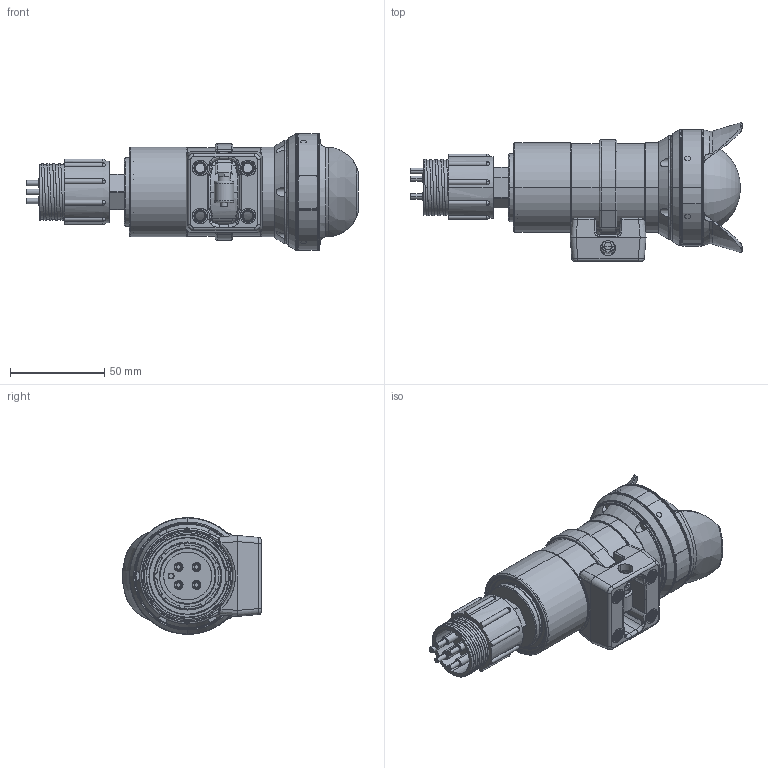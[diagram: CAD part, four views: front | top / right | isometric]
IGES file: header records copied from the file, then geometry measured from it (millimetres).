
Start section: SolidWorks IGES file using analytic representation for surfaces
Global section: file name: S:\3D_Product_Models\Cameras\\IPMSC-D-SUBBH4-0A_20181101a.IGS; native system: SolidWorks 2017; preprocessor: SolidWorks 2017; author: jason.buss; date: 181101.084422; units: millimetre
Bounding box: 176.1 x 73.66 x 61.82 mm (x, y, z)
Surface area: 60581.1 mm2 (no closed solid volume)
Topology: 0 solids, 0 shells, 706 faces, 10653 edges, 10626 vertices
Faces by surface type: revolution 422, bspline 284
